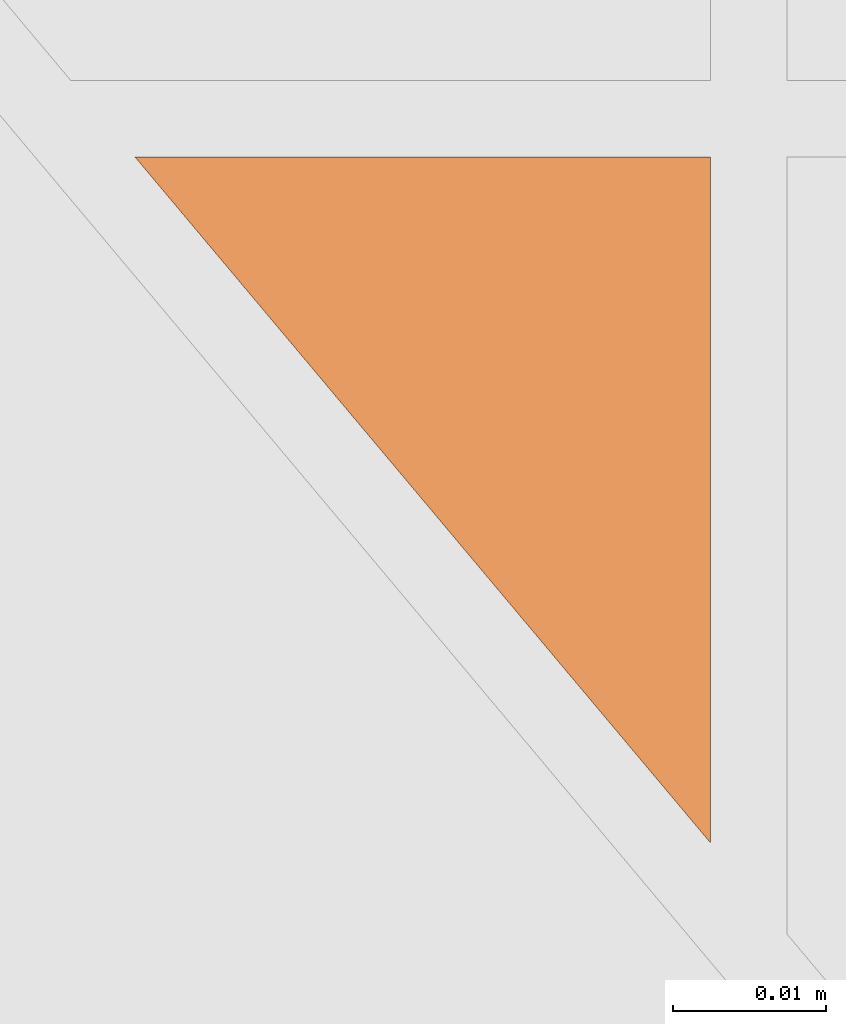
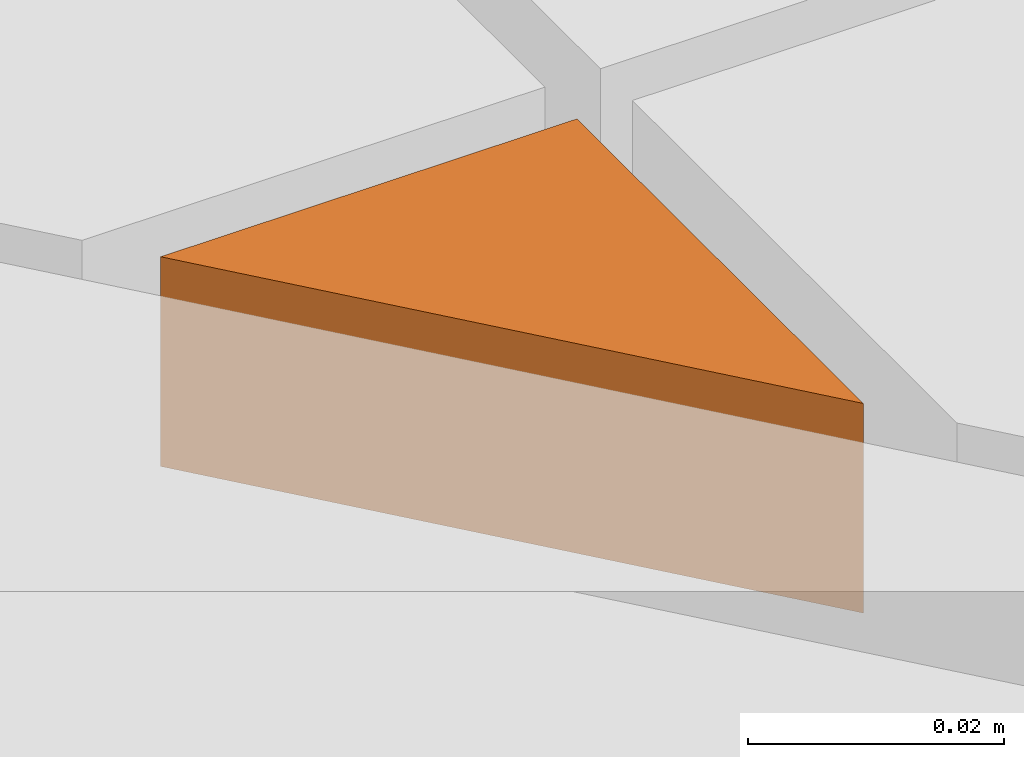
# One storey, part 337 of 338: 1 proxy, 1 element without a shape of its own.
"""IFC2X3 building model written with IfcOpenShell, lengths in millimetres."""

import ifcopenshell
import ifcopenshell.guid

model = None  # the IFC model being written
_history = None  # IfcOwnerHistory: only IFC2X3 demands one
_inside = {}  # id of a spatial element -> (the spatial element, [elements in it])
_under = {}  # id of a project, library or spatial element -> (it, [spatial elements below it])
_declared = {}  # id of a project -> (the project, [libraries it declares])
_typed = {}  # id of a type object -> (the type object, [elements of that type])
_made_of = {}  # id of a material, layer set ... -> (it, [elements and type objects made of it])


def new_model(schema):
    """Start an empty IFC model of exactly this schema.

    Asked for "IFC4X3", IfcOpenShell would pick the latest addendum, in which some entities
    have other attributes; the version numbers below select the first issue.
    IFC2X3 requires an IfcOwnerHistory on every rooted entity: one is made here for all.
    """
    global model, _history
    if schema == "IFC4X3":
        model = ifcopenshell.file(schema_version=(4, 3, 0, 0))
    else:
        model = ifcopenshell.file(schema=schema)
    _inside.clear()
    _under.clear()
    _declared.clear()
    _typed.clear()
    _made_of.clear()
    _history = None
    if model.schema == "IFC2X3":
        org = make("IfcOrganization", Name="unknown")
        user = make(
            "IfcPersonAndOrganization",
            ThePerson=make("IfcPerson", FamilyName="unknown"),
            TheOrganization=org,
        )
        app = make(
            "IfcApplication",
            ApplicationDeveloper=org,
            Version="unknown",
            ApplicationFullName="unknown",
            ApplicationIdentifier="unknown",
        )
        _history = make(
            "IfcOwnerHistory",
            OwningUser=user,
            OwningApplication=app,
            ChangeAction="ADDED",
            CreationDate=0,
        )
    return model


def make(cls, **values):
    """One entity of the class cls with the attributes given. An attribute that is None is left unset."""
    return model.create_entity(
        cls, **{name: value for name, value in values.items() if value is not None}
    )


def entity(cls, *values):
    """Any entity or typed value of the class cls, its attributes in the order of the schema. None: left unset."""
    e = model.create_entity(cls)
    for i, value in enumerate(values):
        if value is not None:
            e[i] = value
    return e


def rooted(cls, **values):
    """An entity with a GlobalId (a new one), such as an element, a storey or a relation."""
    return make(cls, GlobalId=ifcopenshell.guid.new(), OwnerHistory=_history, **values)


def si_unit(unit_type, name, prefix=None):
    """IfcSIUnit, for example si_unit("LENGTHUNIT", "METRE", prefix="MILLI")."""
    return make("IfcSIUnit", UnitType=unit_type, Prefix=prefix, Name=name)


def converted_unit(unit_type, name, factor, base, dimensions=None, offset=None):
    """IfcConversionBasedUnit, such as the inch: factor (a typed value) times the base unit."""
    return make(
        "IfcConversionBasedUnit"
        if offset is None
        else "IfcConversionBasedUnitWithOffset",
        ConversionOffset=offset,
        Dimensions=None
        if dimensions is None
        else entity("IfcDimensionalExponents", *dimensions),
        UnitType=unit_type,
        Name=name,
        ConversionFactor=make(
            "IfcMeasureWithUnit", ValueComponent=factor, UnitComponent=base
        ),
    )


def derived_unit(unit_type, elements):
    """IfcDerivedUnit: a product of units, each with its exponent."""
    return make(
        "IfcDerivedUnit",
        Elements=[
            make("IfcDerivedUnitElement", Unit=unit, Exponent=power)
            for unit, power in elements
        ],
        UnitType=unit_type,
    )


def money_unit(currency):
    """IfcMonetaryUnit."""
    return make("IfcMonetaryUnit", Currency=currency)


def assignment(units):
    """IfcUnitAssignment: the units of a project."""
    return None if units is None else make("IfcUnitAssignment", Units=units)


def point(xyz):
    """IfcCartesianPoint."""
    return None if xyz is None else make("IfcCartesianPoint", Coordinates=xyz)


def direction(xyz):
    """IfcDirection."""
    return None if xyz is None else make("IfcDirection", DirectionRatios=xyz)


def frame(location, z_axis=None, x_axis=None):
    """IfcAxis2Placement3D, a coordinate frame: its origin and axes. An axis left out is left unset."""
    return make(
        "IfcAxis2Placement3D",
        Location=point(location),
        Axis=direction(z_axis),
        RefDirection=direction(x_axis),
    )


def origin_with_axes():
    """The frame at (0, 0, 0) with the z axis (0, 0, 1) and the x axis (1, 0, 0) written out."""
    return frame((0.0, 0.0, 0.0), z_axis=(0.0, 0.0, 1.0), x_axis=(1.0, 0.0, 0.0))


def place(relative_to, where):
    """IfcLocalPlacement: puts the frame where relative to a parent placement (None: the world)."""
    return make(
        "IfcLocalPlacement", PlacementRelTo=relative_to, RelativePlacement=where
    )


def context(
    kind, dimensions, precision=None, world=None, true_north=None, identifier=None
):
    """IfcGeometricRepresentationContext, for example the 3D "Model" context."""
    return make(
        "IfcGeometricRepresentationContext",
        ContextIdentifier=identifier,
        ContextType=kind,
        CoordinateSpaceDimension=dimensions,
        Precision=precision,
        WorldCoordinateSystem=world,
        TrueNorth=true_north,
    )


def subcontext(parent, identifier, kind, view, scale=None):
    """IfcGeometricRepresentationSubContext, for example "Body" below "Model"."""
    return make(
        "IfcGeometricRepresentationSubContext",
        ContextIdentifier=identifier,
        ContextType=kind,
        ParentContext=parent,
        TargetScale=scale,
        TargetView=view,
    )


def project(units=None, contexts=None):
    """IfcProject with its units and contexts."""
    return rooted(
        "IfcProject",
        Name="project",
        RepresentationContexts=contexts,
        UnitsInContext=assignment(units),
    )


def spatial(cls, under=None, at=None, **own):
    """A site, building, storey or space (cls), placed at a placement, below another one or the project."""
    s = rooted(cls, ObjectPlacement=at, **own)
    if under is not None:
        _under.setdefault(under.id(), (under, []))[1].append(s)
    return s


def faces_of(points, faces, orient=None, outer=None):
    """IfcFace entities. A face is a list of loops; a loop is a list of indices into points, from 0.

    orient and outer hold one flag for each loop. By default every Orientation is true, the
    first loop of a face is its IfcFaceOuterBound and the others are IfcFaceBound.
    """
    made = []
    for i, loops in enumerate(faces):
        bounds = []
        for j, loop in enumerate(loops):
            is_outer = j == 0 if outer is None else outer[i][j]
            bounds.append(
                make(
                    "IfcFaceOuterBound" if is_outer else "IfcFaceBound",
                    Bound=make("IfcPolyLoop", Polygon=[points[k] for k in loop]),
                    Orientation=True if orient is None else orient[i][j],
                )
            )
        made.append(make("IfcFace", Bounds=bounds))
    return made


def faceted_brep(points, faces, orient=None, outer=None, voids=None):
    """IfcFacetedBrep: a solid bounded by flat faces; with voids (closed shells), ...WithVoids."""
    shared = [point(p) for p in points]
    hull = make("IfcClosedShell", CfsFaces=faces_of(shared, faces, orient, outer))
    if voids is None:
        return make("IfcFacetedBrep", Outer=hull)
    return make(
        "IfcFacetedBrepWithVoids",
        Outer=hull,
        Voids=[
            make(cls, CfsFaces=faces_of(shared, fs, o, b)) for cls, fs, o, b in voids
        ],
    )


def shape(context_of_items, identifier, shape_type, items):
    """IfcShapeRepresentation: the items that make up one representation, for example the "Body"."""
    return make(
        "IfcShapeRepresentation",
        ContextOfItems=context_of_items,
        RepresentationIdentifier=identifier,
        RepresentationType=shape_type,
        Items=items,
    )


def material(Name=None, Category=None):
    """IfcMaterial."""
    return make("IfcMaterial", Name=Name, Category=Category)


def made_of(thing, what):
    """Note that an element or type object is made of a material, layer set ...; save() writes the relation."""
    if what is not None:
        _made_of.setdefault(what.id(), (what, []))[1].append(thing)
    return thing


def type_object(cls, material=None, **own):
    """A type object (cls), such as IfcWallType, which elements share."""
    return made_of(rooted(cls, **own), material)


def element(
    cls,
    number,
    at=None,
    inside=None,
    cuts=None,
    type_object=None,
    material=None,
    context=None,
    identifier="Body",
    shape_type=None,
    held_by="IfcProductDefinitionShape",
    body=None,
    shapes=None,
    **own,
):
    """One element of the class cls, such as IfcWall. Its Tag is "e" and its number.

    at: its placement. inside: the storey or other place that contains it. cuts: it is an
    opening in that element (IfcRelVoidsElement). A single representation is given by context,
    identifier, shape_type and body (its items); several are given by shapes. held_by: the class
    of the entity that holds the representations. save() writes the other relations.
    """
    e = rooted(cls, Tag="e%d" % number, ObjectPlacement=at, **own)
    if body is not None:
        shapes = [shape(context, identifier, shape_type, body)]
    if shapes is not None:
        e.Representation = make(held_by, Representations=shapes)
    if inside is not None:
        _inside.setdefault(inside.id(), (inside, []))[1].append(e)
    if cuts is not None:
        rooted(
            "IfcRelVoidsElement", RelatingBuildingElement=cuts, RelatedOpeningElement=e
        )
    if type_object is not None:
        _typed.setdefault(type_object.id(), (type_object, []))[1].append(e)
    return made_of(e, material)


def aggregate(whole, parts):
    """IfcRelAggregates: a whole, such as a stair, and the parts it consists of."""
    return rooted("IfcRelAggregates", RelatingObject=whole, RelatedObjects=parts)


def save(model, path):
    """Write the relations noted so far, then the file.

    IfcRelAggregates (storeys below a building ...), IfcRelContainedInSpatialStructure (elements
    in a storey), IfcRelDefinesByType, IfcRelAssociatesMaterial and IfcRelDeclares: one each for
    every whole, place, type object, material and project.
    """
    for whole, parts in _under.values():
        aggregate(whole, parts)
    for where, things in _inside.values():
        rooted(
            "IfcRelContainedInSpatialStructure",
            RelatedElements=things,
            RelatingStructure=where,
        )
    for kind, things in _typed.values():
        rooted("IfcRelDefinesByType", RelatedObjects=things, RelatingType=kind)
    for what, things in _made_of.values():
        rooted("IfcRelAssociatesMaterial", RelatedObjects=things, RelatingMaterial=what)
    for by, libraries in _declared.values():
        rooted("IfcRelDeclares", RelatingContext=by, RelatedDefinitions=libraries)
    model.write(path)


model = new_model("IFC2X3")

# Units and contexts
model_context = context("Model", 3, precision=0.01, world=origin_with_axes(), true_north=direction((0.0, 1.0)))
plan_context = context("Plan", 3, precision=0.01, world=origin_with_axes(), true_north=direction((0.0, 1.0)))
body_context = subcontext(model_context, "Body", "Model", "MODEL_VIEW")
ifc_project = project(units=[si_unit("LENGTHUNIT", "METRE", prefix="MILLI"), si_unit("AREAUNIT", "SQUARE_METRE"), si_unit("VOLUMEUNIT", "CUBIC_METRE"), converted_unit("PLANEANGLEUNIT", "DEGREE", entity("IfcPlaneAngleMeasure", 0.0174532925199), si_unit("PLANEANGLEUNIT", "RADIAN"), dimensions=[0, 0, 0, 0, 0, 0, 0]), money_unit("EUR"), converted_unit("TIMEUNIT", "Year", entity("IfcTimeMeasure", 31556926.0), si_unit("TIMEUNIT", "SECOND"), dimensions=[0, 0, 1, 0, 0, 0, 0]), si_unit("MASSUNIT", "GRAM", prefix="KILO"), si_unit("THERMODYNAMICTEMPERATUREUNIT", "DEGREE_CELSIUS"), si_unit("LUMINOUSINTENSITYUNIT", "LUMEN"), si_unit("ENERGYUNIT", "JOULE", prefix="MEGA"), derived_unit("THERMALCONDUCTANCEUNIT", [(si_unit("POWERUNIT", "WATT"), 1), (si_unit("LENGTHUNIT", "METRE"), -1), (si_unit("THERMODYNAMICTEMPERATUREUNIT", "KELVIN"), -1)]), derived_unit("SPECIFICHEATCAPACITYUNIT", [(si_unit("ENERGYUNIT", "JOULE"), 1), (si_unit("MASSUNIT", "GRAM", prefix="KILO"), -1), (si_unit("THERMODYNAMICTEMPERATUREUNIT", "KELVIN"), -1)]), derived_unit("MASSDENSITYUNIT", [(si_unit("MASSUNIT", "GRAM", prefix="KILO"), 1), (si_unit("VOLUMEUNIT", "CUBIC_METRE"), -1)])], contexts=[model_context, plan_context])

# Site, building, storey
site_placement = place(None, origin_with_axes())
site = spatial("IfcSite", under=ifc_project, at=site_placement, Name="Fortuinstraat Woensdrecht", CompositionType="ELEMENT")
building_placement = place(site_placement, origin_with_axes())
building = spatial("IfcBuilding", under=site, at=building_placement, Name="IKC Fortuna", CompositionType="ELEMENT")
storey_placement = place(building_placement, origin_with_axes())
storey = spatial("IfcBuildingStorey", under=building, at=storey_placement, Name="00 begane grond", CompositionType="ELEMENT", Elevation=0.0)

# Covering, proxy
covering_type = type_object("IfcCoveringType", Name="Curtain Wall Type", PredefinedType="CEILING")
covering_placement = place(storey_placement, frame((23508.1808374, 14013.4616156, 3010.0), z_axis=(0.0, 0.0, 1.0), x_axis=(1.0, 0.0, 0.0)))
covering = element("IfcCovering", 1, at=covering_placement, inside=storey, type_object=covering_type, Name="45_Plafondafwerking_P04", PredefinedType="CEILING")
ifc_material = material(Name="Gipsplaat")
building_element_proxy_type = type_object("IfcBuildingElementProxyType", Name="Distinct Panel 45 x 54 x 20", PredefinedType="NOTDEFINED")
proxy_placement = place(covering_placement, frame((-378.395895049, -9318.04523295, 0.0), z_axis=(0.0, 0.0, 1.0), x_axis=(1.0, 0.0, 0.0)))
proxy = element("IfcBuildingElementProxy", 2, at=proxy_placement, type_object=building_element_proxy_type, material=ifc_material, Name="__Panel-D", context=body_context, shape_type="Brep", body=[
    faceted_brep([(-24.9220721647, 15.5452331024, -10.0), (-24.9220721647, 15.5452331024, 9.99999999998), (12.6416596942, 15.5452331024, 9.99999999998), (12.6416596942, 15.5452331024, -10.0), (12.6416596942, -29.2217414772, -10.0), (12.6416596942, -29.2217414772, 9.99999999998)], [[[0, 1, 2, 3]], [[4, 5, 1, 0]], [[1, 5, 2]], [[3, 2, 5, 4]], [[0, 3, 4]]]),
])
aggregate(covering, [proxy])

save(model, "model.ifc")
